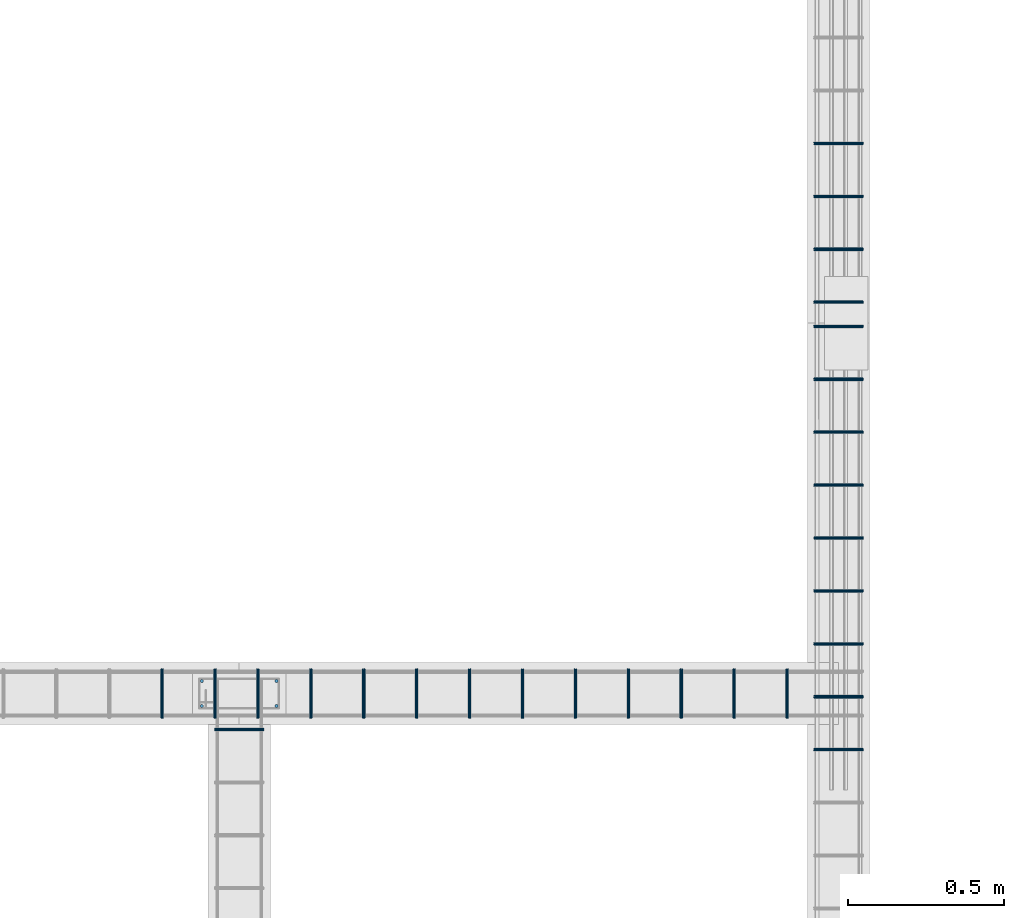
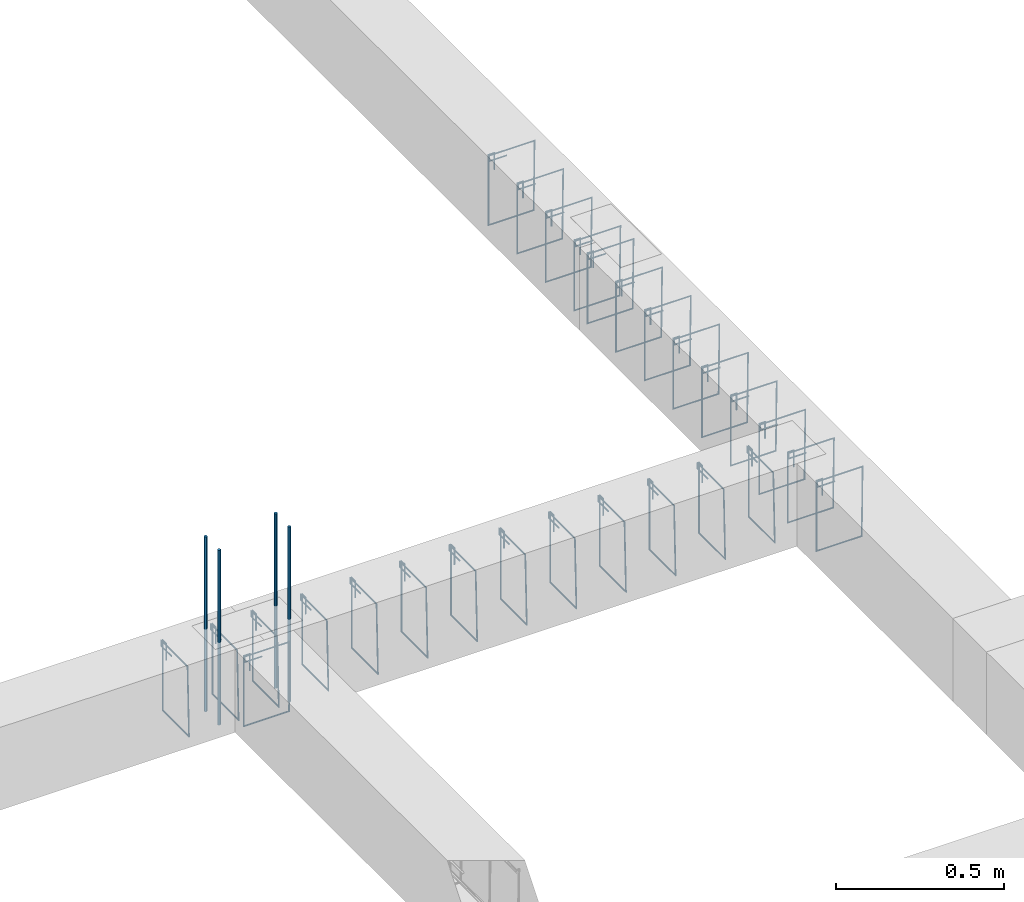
# One storey, part 47 of 150: 31 reinforcing bars.
"""IFC4 building model written with IfcOpenShell, lengths in centimetres."""

from ifc_helpers import new_model, entity, si_unit, derived_unit, frame, origin_with_axes, place, context, project, spatial, source, transform, mapped, element, save


model = new_model("IFC4")

# Units and contexts
model_context = context("Model", 3, precision=1e-05, world=origin_with_axes(), identifier="Body")
ifc_project = project(units=[si_unit("LENGTHUNIT", "METRE", prefix="CENTI"), si_unit("VOLUMEUNIT", "CUBIC_METRE"), si_unit("AREAUNIT", "SQUARE_METRE"), si_unit("POWERUNIT", "WATT"), si_unit("LUMINOUSFLUXUNIT", "LUMEN"), si_unit("ELECTRICCURRENTUNIT", "AMPERE"), si_unit("PRESSUREUNIT", "PASCAL", prefix="KILO"), si_unit("MASSUNIT", "GRAM", prefix="KILO"), si_unit("PLANEANGLEUNIT", "RADIAN"), derived_unit("VOLUMETRICFLOWRATEUNIT", [(si_unit("LENGTHUNIT", "METRE"), 3), (si_unit("TIMEUNIT", "SECOND"), -1)])], contexts=[model_context])

# Site, building, storey
site_placement = place(None, frame((-4000.0, 0.0, 0.0), z_axis=(0.0, 0.0, 1.0), x_axis=(1.0, 0.0, 0.0)))
site = spatial("IfcSite", under=ifc_project, at=site_placement, Name="PADRÃO")
building_placement = place(site_placement, frame((0.0, 0.0, -14.0)))
building = spatial("IfcBuilding", under=site, at=building_placement, Name="CRECHE PRÉ-ESCOLA TIPO 2")
placement = place(building_placement, origin_with_axes())
storey_placement = place(placement, frame((0.0, 0.0, 30.0), z_axis=(0.0, 0.0, 1.0), x_axis=(1.0, 0.0, 0.0)))
storey = spatial("IfcBuildingStorey", under=building, at=storey_placement, Name="VIGA BALDRAME", CompositionType="ELEMENT", Elevation=16.0)

# Reinforcing bars
shared_shape_1 = source(origin_with_axes(), model_context, "Body", "AdvancedSweptSolid", [
    entity("IfcSweptDiskSolid", entity("IfcCompositeCurve", [entity("IfcCompositeCurveSegment", "CONTINUOUS", True, entity("IfcPolyline", [entity("IfcCartesianPoint", [2.0, -6.0, 0.0]), entity("IfcCartesianPoint", [2.0, 0.0, 0.0])])), entity("IfcCompositeCurveSegment", "CONTINUOUS", True, entity("IfcPolyline", [entity("IfcCartesianPoint", [2.0, 0.0, 0.0]), entity("IfcCartesianPoint", [0.0, 0.0, 0.0])])), entity("IfcCompositeCurveSegment", "CONTINUOUS", True, entity("IfcPolyline", [entity("IfcCartesianPoint", [0.0, 0.0, 0.0]), entity("IfcCartesianPoint", [0.0, -25.5, 0.0])])), entity("IfcCompositeCurveSegment", "CONTINUOUS", True, entity("IfcPolyline", [entity("IfcCartesianPoint", [0.0, -25.5, 0.0]), entity("IfcCartesianPoint", [15.5, -25.5, 0.0])])), entity("IfcCompositeCurveSegment", "CONTINUOUS", True, entity("IfcPolyline", [entity("IfcCartesianPoint", [15.5, -25.5, 0.0]), entity("IfcCartesianPoint", [15.5, 0.0, 0.5])])), entity("IfcCompositeCurveSegment", "CONTINUOUS", True, entity("IfcPolyline", [entity("IfcCartesianPoint", [15.5, 0.0, 0.5]), entity("IfcCartesianPoint", [0.0, 0.0, 0.5])])), entity("IfcCompositeCurveSegment", "CONTINUOUS", True, entity("IfcPolyline", [entity("IfcCartesianPoint", [0.0, 0.0, 0.5]), entity("IfcCartesianPoint", [0.0, -2.0, 0.5])])), entity("IfcCompositeCurveSegment", "CONTINUOUS", True, entity("IfcPolyline", [entity("IfcCartesianPoint", [0.0, -2.0, 0.5]), entity("IfcCartesianPoint", [6.0, -2.0, 0.5])]))], False), 0.25),
])
for number, where, z_axis, x_axis, name in (
    (1, (3128.25, 609.795, -2.25), (0.0, -1.0, 0.0), (1.0, 0.0, 0.0), "V216 - Estribo"),
    (2, (3128.25, 745.795, -2.25), (0.0, -1.0, 0.0), (1.0, 0.0, 0.0), "V216 - Estribo"),
    (3, (3128.25, 626.795, -2.25), (0.0, -1.0, 0.0), (1.0, 0.0, 0.0), "V216 - Estribo"),
    (4, (3128.25, 643.795, -2.25), (0.0, -1.0, 0.0), (1.0, 0.0, 0.0), "V216 - Estribo"),
    (5, (3128.25, 660.795, -2.25), (0.0, -1.0, 0.0), (1.0, 0.0, 0.0), "V216 - Estribo"),
    (6, (3128.25, 677.795, -2.25), (0.0, -1.0, 0.0), (1.0, 0.0, 0.0), "V216 - Estribo"),
    (7, (3128.25, 694.795, -2.25), (0.0, -1.0, 0.0), (1.0, 0.0, 0.0), "V216 - Estribo"),
    (8, (3128.25, 711.795, -2.25), (0.0, -1.0, 0.0), (1.0, 0.0, 0.0), "V216 - Estribo"),
    (9, (3128.25, 728.795, -2.25), (0.0, -1.0, 0.0), (1.0, 0.0, 0.0), "V216 - Estribo"),
):
    element("IfcReinforcingBar", number, at=place(storey_placement, frame(where, z_axis=z_axis, x_axis=x_axis)), inside=storey, Name=name, BarLength=0.0, CrossSectionArea=1.9634954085e-05, NominalDiameter=0.5, PredefinedType="MAIN", context=model_context, shape_type="MappedRepresentation", body=[
        mapped(shared_shape_1, transform((0.0, 0.0, 0.0), scale=1.0)),
    ])
shared_shape_2 = source(origin_with_axes(), model_context, "Body", "AdvancedSweptSolid", [
    entity("IfcSweptDiskSolid", entity("IfcCompositeCurve", [entity("IfcCompositeCurveSegment", "CONTINUOUS", True, entity("IfcPolyline", [entity("IfcCartesianPoint", [2.0, -6.0, 0.0]), entity("IfcCartesianPoint", [2.0, 0.0, 0.0])])), entity("IfcCompositeCurveSegment", "CONTINUOUS", True, entity("IfcPolyline", [entity("IfcCartesianPoint", [2.0, 0.0, 0.0]), entity("IfcCartesianPoint", [0.0, 0.0, 0.0])])), entity("IfcCompositeCurveSegment", "CONTINUOUS", True, entity("IfcPolyline", [entity("IfcCartesianPoint", [0.0, 0.0, 0.0]), entity("IfcCartesianPoint", [0.0, -25.5, 0.0])])), entity("IfcCompositeCurveSegment", "CONTINUOUS", True, entity("IfcPolyline", [entity("IfcCartesianPoint", [0.0, -25.5, 0.0]), entity("IfcCartesianPoint", [15.5, -25.5, 0.0])])), entity("IfcCompositeCurveSegment", "CONTINUOUS", True, entity("IfcPolyline", [entity("IfcCartesianPoint", [15.5, -25.5, 0.0]), entity("IfcCartesianPoint", [15.5, 0.0, 0.5])])), entity("IfcCompositeCurveSegment", "CONTINUOUS", True, entity("IfcPolyline", [entity("IfcCartesianPoint", [15.5, 0.0, 0.5]), entity("IfcCartesianPoint", [0.0, 0.0, 0.5])])), entity("IfcCompositeCurveSegment", "CONTINUOUS", True, entity("IfcPolyline", [entity("IfcCartesianPoint", [0.0, 0.0, 0.5]), entity("IfcCartesianPoint", [0.0, -2.0, 0.5])])), entity("IfcCompositeCurveSegment", "CONTINUOUS", True, entity("IfcPolyline", [entity("IfcCartesianPoint", [0.0, -2.0, 0.5]), entity("IfcCartesianPoint", [6.0, -2.0, 0.5])]))], False), 0.25),
])
for number, where, z_axis, x_axis, name in (
    (10, (3128.25, 804.55, -2.25), (0.0, -1.0, 0.0), (1.0, 0.0, 0.0), "V216 - Estribo"),
    (11, (3128.25, 787.55, -2.25), (0.0, -1.0, 0.0), (1.0, 0.0, 0.0), "V216 - Estribo"),
    (12, (3128.25, 770.55, -2.25), (0.0, -1.0, 0.0), (1.0, 0.0, 0.0), "V216 - Estribo"),
    (13, (3128.25, 753.55, -2.25), (0.0, -1.0, 0.0), (1.0, 0.0, 0.0), "V216 - Estribo"),
):
    element("IfcReinforcingBar", number, at=place(storey_placement, frame(where, z_axis=z_axis, x_axis=x_axis)), inside=storey, Name=name, BarLength=0.0, CrossSectionArea=1.9634954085e-05, NominalDiameter=0.5, PredefinedType="MAIN", context=model_context, shape_type="MappedRepresentation", body=[
        mapped(shared_shape_2, transform((0.0, 0.0, 0.0), scale=1.0)),
    ])
shared_shape_3 = source(origin_with_axes(), model_context, "Body", "AdvancedSweptSolid", [
    entity("IfcSweptDiskSolid", entity("IfcCompositeCurve", [entity("IfcCompositeCurveSegment", "CONTINUOUS", True, entity("IfcPolyline", [entity("IfcCartesianPoint", [2.0, -6.0, 0.0]), entity("IfcCartesianPoint", [2.0, 0.0, 0.0])])), entity("IfcCompositeCurveSegment", "CONTINUOUS", True, entity("IfcPolyline", [entity("IfcCartesianPoint", [2.0, 0.0, 0.0]), entity("IfcCartesianPoint", [0.0, 0.0, 0.0])])), entity("IfcCompositeCurveSegment", "CONTINUOUS", True, entity("IfcPolyline", [entity("IfcCartesianPoint", [0.0, 0.0, 0.0]), entity("IfcCartesianPoint", [0.0, -25.5, 0.0])])), entity("IfcCompositeCurveSegment", "CONTINUOUS", True, entity("IfcPolyline", [entity("IfcCartesianPoint", [0.0, -25.5, 0.0]), entity("IfcCartesianPoint", [15.5, -25.5, 0.0])])), entity("IfcCompositeCurveSegment", "CONTINUOUS", True, entity("IfcPolyline", [entity("IfcCartesianPoint", [15.5, -25.5, 0.0]), entity("IfcCartesianPoint", [15.5, 0.0, 0.5])])), entity("IfcCompositeCurveSegment", "CONTINUOUS", True, entity("IfcPolyline", [entity("IfcCartesianPoint", [15.5, 0.0, 0.5]), entity("IfcCartesianPoint", [0.0, 0.0, 0.5])])), entity("IfcCompositeCurveSegment", "CONTINUOUS", True, entity("IfcPolyline", [entity("IfcCartesianPoint", [0.0, 0.0, 0.5]), entity("IfcCartesianPoint", [0.0, -2.0, 0.5])])), entity("IfcCompositeCurveSegment", "CONTINUOUS", True, entity("IfcPolyline", [entity("IfcCartesianPoint", [0.0, -2.0, 0.5]), entity("IfcCartesianPoint", [6.0, -2.0, 0.5])]))], False), 0.25),
])
for number, where, z_axis, x_axis, name in (
    (14, (2918.955, 635.33, -2.25), (-1.0, 0.0, 0.0), (0.0, -1.0, 0.0), "V148 - Estribo"),
    (15, (2935.955, 635.33, -2.25), (-1.0, 0.0, 0.0), (0.0, -1.0, 0.0), "V148 - Estribo"),
):
    element("IfcReinforcingBar", number, at=place(storey_placement, frame(where, z_axis=z_axis, x_axis=x_axis)), inside=storey, Name=name, BarLength=0.0, CrossSectionArea=1.9634954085e-05, NominalDiameter=0.5, PredefinedType="MAIN", context=model_context, shape_type="MappedRepresentation", body=[
        mapped(shared_shape_3, transform((0.0, 0.0, 0.0), scale=1.0)),
    ])
shared_shape_4 = source(origin_with_axes(), model_context, "Body", "AdvancedSweptSolid", [
    entity("IfcSweptDiskSolid", entity("IfcCompositeCurve", [entity("IfcCompositeCurveSegment", "CONTINUOUS", True, entity("IfcPolyline", [entity("IfcCartesianPoint", [2.0, -6.0, 0.0]), entity("IfcCartesianPoint", [2.0, 0.0, 0.0])])), entity("IfcCompositeCurveSegment", "CONTINUOUS", True, entity("IfcPolyline", [entity("IfcCartesianPoint", [2.0, 0.0, 0.0]), entity("IfcCartesianPoint", [0.0, 0.0, 0.0])])), entity("IfcCompositeCurveSegment", "CONTINUOUS", True, entity("IfcPolyline", [entity("IfcCartesianPoint", [0.0, 0.0, 0.0]), entity("IfcCartesianPoint", [0.0, -25.5, 0.0])])), entity("IfcCompositeCurveSegment", "CONTINUOUS", True, entity("IfcPolyline", [entity("IfcCartesianPoint", [0.0, -25.5, 0.0]), entity("IfcCartesianPoint", [15.5, -25.5, 0.0])])), entity("IfcCompositeCurveSegment", "CONTINUOUS", True, entity("IfcPolyline", [entity("IfcCartesianPoint", [15.5, -25.5, 0.0]), entity("IfcCartesianPoint", [15.5, 0.0, 0.5])])), entity("IfcCompositeCurveSegment", "CONTINUOUS", True, entity("IfcPolyline", [entity("IfcCartesianPoint", [15.5, 0.0, 0.5]), entity("IfcCartesianPoint", [0.0, 0.0, 0.5])])), entity("IfcCompositeCurveSegment", "CONTINUOUS", True, entity("IfcPolyline", [entity("IfcCartesianPoint", [0.0, 0.0, 0.5]), entity("IfcCartesianPoint", [0.0, -2.0, 0.5])])), entity("IfcCompositeCurveSegment", "CONTINUOUS", True, entity("IfcPolyline", [entity("IfcCartesianPoint", [0.0, -2.0, 0.5]), entity("IfcCartesianPoint", [6.0, -2.0, 0.5])]))], False), 0.25),
])
for number, where, z_axis, x_axis, name in (
    (16, (3119.725, 635.33, -2.25), (-1.0, 0.0, 0.0), (0.0, -1.0, 0.0), "V148 - Estribo"),
    (17, (3102.725, 635.33, -2.25), (-1.0, 0.0, 0.0), (0.0, -1.0, 0.0), "V148 - Estribo"),
    (18, (3085.725, 635.33, -2.25), (-1.0, 0.0, 0.0), (0.0, -1.0, 0.0), "V148 - Estribo"),
    (19, (3068.725, 635.33, -2.25), (-1.0, 0.0, 0.0), (0.0, -1.0, 0.0), "V148 - Estribo"),
    (20, (3051.725, 635.33, -2.25), (-1.0, 0.0, 0.0), (0.0, -1.0, 0.0), "V148 - Estribo"),
    (21, (3034.725, 635.33, -2.25), (-1.0, 0.0, 0.0), (0.0, -1.0, 0.0), "V148 - Estribo"),
    (22, (2966.725, 635.33, -2.25), (-1.0, 0.0, 0.0), (0.0, -1.0, 0.0), "V148 - Estribo"),
    (23, (2983.725, 635.33, -2.25), (-1.0, 0.0, 0.0), (0.0, -1.0, 0.0), "V148 - Estribo"),
    (24, (3000.725, 635.33, -2.25), (-1.0, 0.0, 0.0), (0.0, -1.0, 0.0), "V148 - Estribo"),
    (25, (3017.725, 635.33, -2.25), (-1.0, 0.0, 0.0), (0.0, -1.0, 0.0), "V148 - Estribo"),
    (26, (2949.725, 635.33, -2.25), (-1.0, 0.0, 0.0), (0.0, -1.0, 0.0), "V148 - Estribo"),
):
    element("IfcReinforcingBar", number, at=place(storey_placement, frame(where, z_axis=z_axis, x_axis=x_axis)), inside=storey, Name=name, BarLength=0.0, CrossSectionArea=1.9634954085e-05, NominalDiameter=0.5, PredefinedType="MAIN", context=model_context, shape_type="MappedRepresentation", body=[
        mapped(shared_shape_4, transform((0.0, 0.0, 0.0), scale=1.0)),
    ])
shared_shape_5 = source(origin_with_axes(), model_context, "Body", "AdvancedSweptSolid", [
    entity("IfcSweptDiskSolid", entity("IfcCompositeCurve", [entity("IfcCompositeCurveSegment", "CONTINUOUS", True, entity("IfcPolyline", [entity("IfcCartesianPoint", [2.0, -6.0, 0.0]), entity("IfcCartesianPoint", [2.0, 0.0, 0.0])])), entity("IfcCompositeCurveSegment", "CONTINUOUS", True, entity("IfcPolyline", [entity("IfcCartesianPoint", [2.0, 0.0, 0.0]), entity("IfcCartesianPoint", [0.0, 0.0, 0.0])])), entity("IfcCompositeCurveSegment", "CONTINUOUS", True, entity("IfcPolyline", [entity("IfcCartesianPoint", [0.0, 0.0, 0.0]), entity("IfcCartesianPoint", [0.0, -25.5, 0.0])])), entity("IfcCompositeCurveSegment", "CONTINUOUS", True, entity("IfcPolyline", [entity("IfcCartesianPoint", [0.0, -25.5, 0.0]), entity("IfcCartesianPoint", [15.5, -25.5, 0.0])])), entity("IfcCompositeCurveSegment", "CONTINUOUS", True, entity("IfcPolyline", [entity("IfcCartesianPoint", [15.5, -25.5, 0.0]), entity("IfcCartesianPoint", [15.5, 0.0, 0.5])])), entity("IfcCompositeCurveSegment", "CONTINUOUS", True, entity("IfcPolyline", [entity("IfcCartesianPoint", [15.5, 0.0, 0.5]), entity("IfcCartesianPoint", [0.0, 0.0, 0.5])])), entity("IfcCompositeCurveSegment", "CONTINUOUS", True, entity("IfcPolyline", [entity("IfcCartesianPoint", [0.0, 0.0, 0.5]), entity("IfcCartesianPoint", [0.0, -2.0, 0.5])])), entity("IfcCompositeCurveSegment", "CONTINUOUS", True, entity("IfcPolyline", [entity("IfcCartesianPoint", [0.0, -2.0, 0.5]), entity("IfcCartesianPoint", [6.0, -2.0, 0.5])]))], False), 0.25),
])
reinforcing_bar_placement = place(storey_placement, frame((2935.7, 616.295, -2.25), z_axis=(0.0, -1.0, 0.0), x_axis=(1.0, 0.0, 0.0)))
element("IfcReinforcingBar", 27, at=reinforcing_bar_placement, inside=storey, Name="V209 - Estribo", BarLength=0.0, CrossSectionArea=1.9634954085e-05, NominalDiameter=0.5, PredefinedType="MAIN", context=model_context, shape_type="MappedRepresentation", body=[
    mapped(shared_shape_5, transform((0.0, 0.0, 0.0), scale=1.0)),
])
for number, where, z_axis, x_axis, name in (
    (28, (2955.45, 623.58, 33.3573001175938), (0.0, 0.0, 1.0), (1.0, 0.0, 0.0), "P134 - Longitudinal"),
    (29, (2955.45, 631.58, 33.3573001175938), (0.0, 0.0, 1.0), (1.0, 0.0, 0.0), "P134 - Longitudinal"),
    (30, (2931.45, 631.58, 33.3573001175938), (0.0, 0.0, 1.0), (1.0, 0.0, 0.0), "P134 - Longitudinal"),
    (31, (2931.45, 623.58, 33.3573001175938), (0.0, 0.0, 1.0), (1.0, 0.0, 0.0), "P134 - Longitudinal"),
):
    element("IfcReinforcingBar", number, at=place(storey_placement, frame(where, z_axis=z_axis, x_axis=x_axis)), inside=storey, Name=name, BarLength=0.0, CrossSectionArea=7.853981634e-05, NominalDiameter=1.0, PredefinedType="MAIN", context=model_context, shape_type="AdvancedSweptSolid", body=[
        entity("IfcSweptDiskSolid", entity("IfcCompositeCurve", [entity("IfcCompositeCurveSegment", "CONTINUOUS", True, entity("IfcPolyline", [entity("IfcCartesianPoint", [0.0, 0.0, -63.3573001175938]), entity("IfcCartesianPoint", [0.0, 0.0, 0.0])]))], False), 0.5),
    ])

save(model, "model.ifc")
